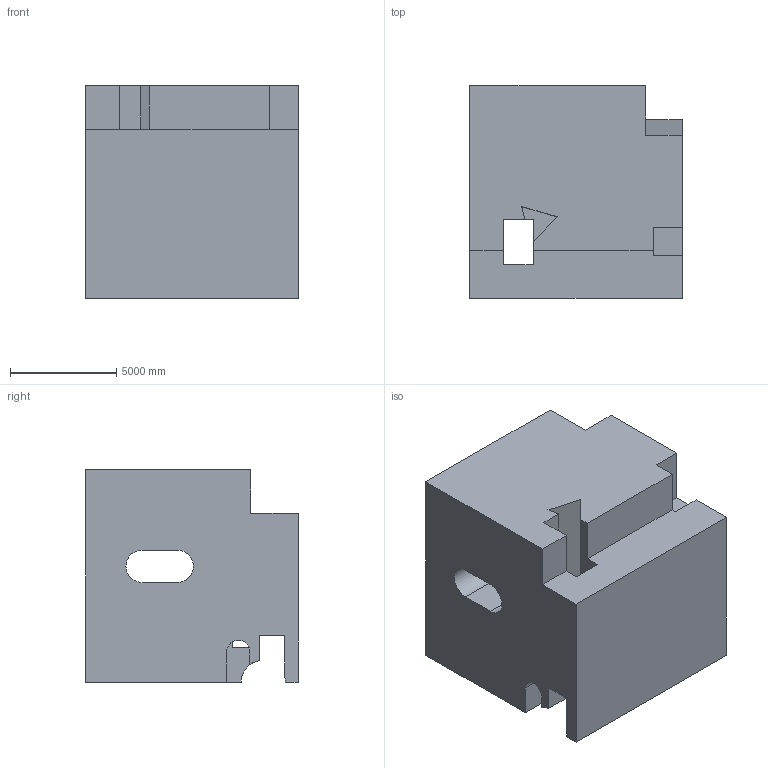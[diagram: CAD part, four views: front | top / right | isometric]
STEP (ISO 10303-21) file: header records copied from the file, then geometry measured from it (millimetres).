
FILE_DESCRIPTION (( 'STEP AP203' ), '1' );
FILE_NAME ('1952.STEP', '2022-08-23T09:53:31', ( 'user' ), ( '' ), 'SwSTEP 2.0', 'SolidWorks 2021', '' );
FILE_SCHEMA (( 'CONFIG_CONTROL_DESIGN' ));
Length unit declared in the file: centimetre
Products named in the file (1): 1952
Bounding box: 10000 x 10000 x 10000 mm (x, y, z)
Volume: 776386870788.9 mm3; surface area: 790553311.6 mm2
Topology: 1 solids, 1 shells, 50 faces, 156 edges, 104 vertices
Faces by surface type: plane 41, cylinder 9
Entity records: 1810 total; most frequent: ORIENTED_EDGE 312, CARTESIAN_POINT 311, DIRECTION 279, EDGE_CURVE 156, VECTOR 135, LINE 135, VERTEX_POINT 104, AXIS2_PLACEMENT_3D 72
